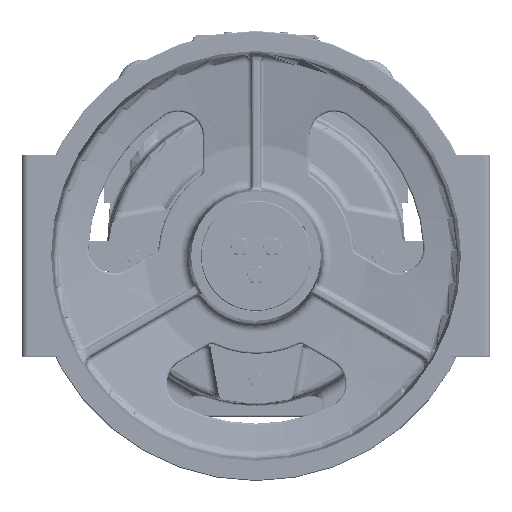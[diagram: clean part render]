
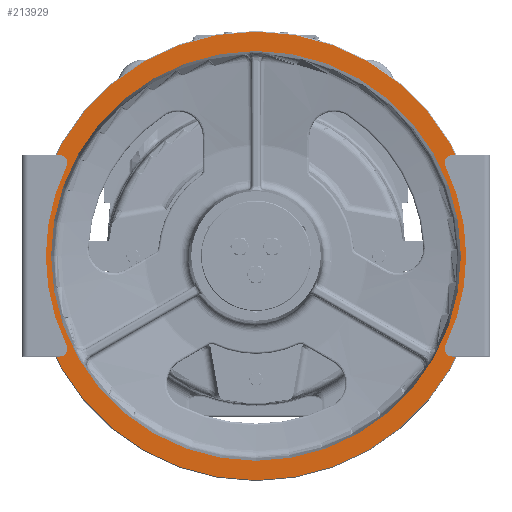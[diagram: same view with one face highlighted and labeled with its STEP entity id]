
A CAD part, top view. The second image highlights one B-rep face of the part: STEP entity #213929.
In plain terms, the highlighted planar face has unit normal (0, 0, 1) as drawn and (0, 1, 0) by its records, which use the part's own axes.
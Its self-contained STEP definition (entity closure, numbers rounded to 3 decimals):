
#195306=CARTESIAN_POINT('',(0.,70.,0.));
#195307=DIRECTION('',(0.,-1.,0.));
#195308=DIRECTION('',(0.,0.,1.));
#195309=AXIS2_PLACEMENT_3D('',#195306,#195307,#195308);
#195311=CARTESIAN_POINT('',(0.,70.,0.));
#195312=DIRECTION('',(0.,-1.,0.));
#195313=DIRECTION('',(0.,0.,-1.));
#195314=AXIS2_PLACEMENT_3D('',#195311,#195312,#195313);
#195316=CARTESIAN_POINT('',(0.,70.,0.));
#195317=DIRECTION('',(0.,1.,0.));
#195318=DIRECTION('',(0.,0.,1.));
#195319=AXIS2_PLACEMENT_3D('',#195316,#195317,#195318);
#195321=CARTESIAN_POINT('',(0.,70.,0.));
#195322=DIRECTION('',(0.,1.,0.));
#195323=DIRECTION('',(0.,0.,-1.));
#195324=AXIS2_PLACEMENT_3D('',#195321,#195322,#195323);
#204378=CARTESIAN_POINT('',(0.,70.,-275.));
#204379=CARTESIAN_POINT('',(0.,70.,275.));
#204380=VERTEX_POINT('',#204378);
#204381=VERTEX_POINT('',#204379);
#204400=CARTESIAN_POINT('',(0.,70.,301.));
#204401=CARTESIAN_POINT('',(0.,70.,-301.));
#204402=VERTEX_POINT('',#204400);
#204403=VERTEX_POINT('',#204401);
#213913=CARTESIAN_POINT('',(0.,70.,0.));
#213914=DIRECTION('',(0.,-1.,0.));
#213915=DIRECTION('',(0.,0.,1.));
#213916=AXIS2_PLACEMENT_3D('',#213913,#213914,#213915);
#213917=PLANE('',#213916);
#213919=ORIENTED_EDGE('',*,*,#213918,.T.);
#213920=ORIENTED_EDGE('',*,*,#213903,.T.);
#213921=EDGE_LOOP('',(#213919,#213920));
#213922=FACE_OUTER_BOUND('',#213921,.F.);
#213924=ORIENTED_EDGE('',*,*,#213923,.T.);
#213926=ORIENTED_EDGE('',*,*,#213925,.T.);
#213927=EDGE_LOOP('',(#213924,#213926));
#213928=FACE_BOUND('',#213927,.F.);
#213929=ADVANCED_FACE('',(#213922,#213928),#213917,.F.);
#195310=CIRCLE('',#195309,301.);
#195315=CIRCLE('',#195314,301.);
#195320=CIRCLE('',#195319,275.);
#195325=CIRCLE('',#195324,275.);
#213903=EDGE_CURVE('',#204403,#204402,#195315,.T.);
#213918=EDGE_CURVE('',#204402,#204403,#195310,.T.);
#213923=EDGE_CURVE('',#204381,#204380,#195320,.T.);
#213925=EDGE_CURVE('',#204380,#204381,#195325,.T.);
